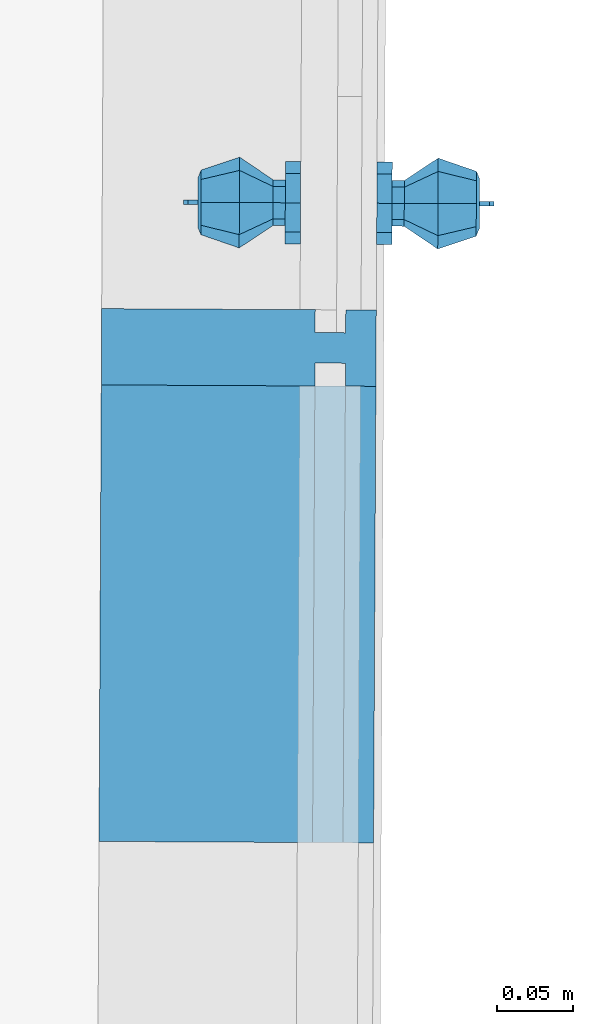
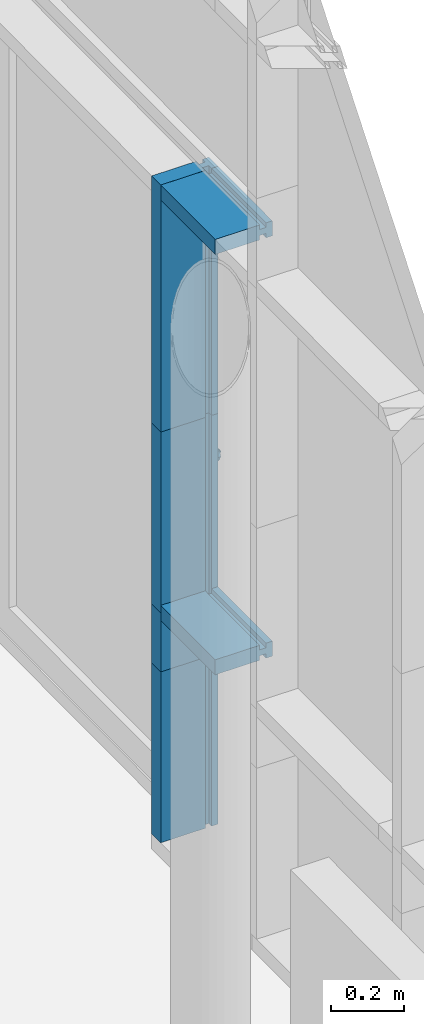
# One storey, part 181 of 196: 7 building element parts, 1 element without a shape of its own.
"""IFC2X3 building model written with IfcOpenShell, lengths in metres."""

from ifc_helpers import new_model, entity, si_unit, converted_unit, derived_unit, money_unit, direction, frame, origin_with_axes, place, context, subcontext, project, spatial, open_shell, faceted_brep, surface_model, material, type_object, element, aggregate, save


model = new_model("IFC2X3")

# Units and contexts
model_context = context("Model", 3, precision=1e-05, world=origin_with_axes(), true_north=direction((0.0, 1.0)))
body_context = subcontext(model_context, "Body", "Model", "MODEL_VIEW")
ifc_project = project(units=[si_unit("LENGTHUNIT", "METRE"), si_unit("AREAUNIT", "SQUARE_METRE"), si_unit("VOLUMEUNIT", "CUBIC_METRE"), converted_unit("PLANEANGLEUNIT", "DEGREE", entity("IfcPlaneAngleMeasure", 0.0174532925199), si_unit("PLANEANGLEUNIT", "RADIAN"), dimensions=[0, 0, 0, 0, 0, 0, 0]), money_unit("EUR"), converted_unit("TIMEUNIT", "Year", entity("IfcTimeMeasure", 31556926.0), si_unit("TIMEUNIT", "SECOND"), dimensions=[0, 0, 1, 0, 0, 0, 0]), si_unit("MASSUNIT", "GRAM", prefix="KILO"), si_unit("THERMODYNAMICTEMPERATUREUNIT", "DEGREE_CELSIUS"), si_unit("LUMINOUSINTENSITYUNIT", "LUMEN"), si_unit("ENERGYUNIT", "JOULE", prefix="MEGA"), derived_unit("THERMALCONDUCTANCEUNIT", [(si_unit("POWERUNIT", "WATT"), 1), (si_unit("LENGTHUNIT", "METRE"), -1), (si_unit("THERMODYNAMICTEMPERATUREUNIT", "KELVIN"), -1)]), derived_unit("SPECIFICHEATCAPACITYUNIT", [(si_unit("ENERGYUNIT", "JOULE"), 1), (si_unit("MASSUNIT", "GRAM", prefix="KILO"), -1), (si_unit("THERMODYNAMICTEMPERATUREUNIT", "KELVIN"), -1)]), derived_unit("MASSDENSITYUNIT", [(si_unit("MASSUNIT", "GRAM", prefix="KILO"), 1), (si_unit("VOLUMEUNIT", "CUBIC_METRE"), -1)])], contexts=[model_context])

# Site, building, storey
site_placement = place(None, origin_with_axes())
site = spatial("IfcSite", under=ifc_project, at=site_placement, Name="Gelände", CompositionType="ELEMENT")
building_placement = place(site_placement, origin_with_axes())
building = spatial("IfcBuilding", under=site, at=building_placement, Name="Gebäude", CompositionType="ELEMENT")
storey_placement = place(building_placement, frame((0.0, 0.0, -3.0), z_axis=(0.0, 0.0, 1.0), x_axis=(1.0, 0.0, 0.0)))
storey = spatial("IfcBuildingStorey", under=building, at=storey_placement, Name="KELLERGESCHOSS", CompositionType="ELEMENT", Elevation=-3.0)

# Proxy, building element parts
building_element_proxy_type = type_object("IfcBuildingElementProxyType", Name="Fassadentyp", PredefinedType="NOTDEFINED")
proxy_placement = place(storey_placement, frame((9.16160365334, 37.7476945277, 0.610000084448), z_axis=(0.0, 0.0, 1.0), x_axis=(1.0, 0.0, 0.0)))
proxy = element("IfcBuildingElementProxy", 1, at=proxy_placement, inside=storey, type_object=building_element_proxy_type, Name="Fassade-002")
ifc_material_1 = material(Name="54_Metall, Edelstahl")
building_element_part_1_placement = place(proxy_placement, origin_with_axes())
building_element_part_1 = element("IfcBuildingElementPart", 2, at=building_element_part_1_placement, material=ifc_material_1, Name="54_Metall, Edelstahl", context=body_context, shape_type="SurfaceModel", body=[
    surface_model("IfcShellBasedSurfaceModel", [(0.108033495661, 2.52882729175, 1.18616309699), (0.110077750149, 2.52531444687, 1.18266065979), (0.110136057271, 2.53681673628, 1.17789619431), (0.108074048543, 2.53682718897, 1.18284938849), (0.108016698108, 2.52551362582, 1.19416309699), (0.110053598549, 2.52055004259, 1.19416309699), (0.108009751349, 2.52181899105, 1.17915476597), (0.108085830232, 2.53682712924, 1.17293811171), (0.110194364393, 2.5483190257, 1.18266065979), (0.108114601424, 2.54482708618, 1.18616309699), (0.108131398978, 2.54814075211, 1.19416309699), (0.108114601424, 2.54482708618, 1.20216309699), (0.108074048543, 2.53682718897, 1.20547680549), (0.108033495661, 2.52882729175, 1.20216309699), (0.110077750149, 2.52531444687, 1.20566553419), (0.107978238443, 2.51560241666, 1.19416309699), (0.0828317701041, 2.51591191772, 1.17312013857), (0.0829384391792, 2.53695460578, 1.1644038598), (0.108161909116, 2.55183526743, 1.17915476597), (0.110218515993, 2.55308342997, 1.19416309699), (0.110194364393, 2.5483190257, 1.20566553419), (0.110136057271, 2.53681673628, 1.21042999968), (0.108009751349, 2.52181899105, 1.20917142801), (0.0827875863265, 2.50719575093, 1.19416309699), (0.0608076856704, 2.52646005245, 1.18355649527), (0.0608614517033, 2.5370665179, 1.17916309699), (0.0830451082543, 2.55799729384, 1.17312013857), (0.108193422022, 2.55805184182, 1.19416309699), (0.108161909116, 2.55183526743, 1.20917142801), (0.108085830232, 2.53682712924, 1.21538808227), (0.0828317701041, 2.51591191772, 1.21520605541), (0.0607854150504, 2.52206671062, 1.19416309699), (0.0607876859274, 2.52646015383, 1.18355649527), (0.0608414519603, 2.53706661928, 1.17916309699), (0.0609152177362, 2.54767298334, 1.18355649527), (0.0830892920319, 2.56671346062, 1.19416309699), (0.0830451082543, 2.55799729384, 1.21520605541), (0.0829384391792, 2.53695460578, 1.22392233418), (0.0608076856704, 2.52646005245, 1.20476969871), (0.0607654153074, 2.522066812, 1.19416309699), (0.0529077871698, 2.52650009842, 1.18355649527), (0.0529615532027, 2.53710656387, 1.17916309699), (0.0608952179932, 2.54767308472, 1.18355649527), (0.0609374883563, 2.55206632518, 1.19416309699), (0.0609152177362, 2.54767298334, 1.20476969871), (0.0608614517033, 2.5370665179, 1.20916309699), (0.0607876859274, 2.52646015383, 1.20476969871), (0.0528855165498, 2.52210675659, 1.19416309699), (0.0528077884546, 2.52650060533, 1.18355649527), (0.0528615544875, 2.53710707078, 1.17916309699), (0.0530153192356, 2.54771302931, 1.18355649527), (0.0609174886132, 2.55206642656, 1.19416309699), (0.0608952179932, 2.54767308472, 1.20476969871), (0.0608414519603, 2.53706661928, 1.20916309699), (0.0529077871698, 2.52650009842, 1.20476969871), (0.0527855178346, 2.5221072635, 1.19416309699), (0.0528074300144, 2.52642989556, 1.18348578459), (0.0528615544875, 2.53710707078, 1.17906309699), (0.0529153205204, 2.54771353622, 1.18355649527), (0.0530375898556, 2.55210637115, 1.19416309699), (0.0530153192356, 2.54771302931, 1.20476969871), (0.0529615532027, 2.53710656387, 1.20916309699), (0.0528077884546, 2.52650060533, 1.20476969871), (0.0527850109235, 2.52200726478, 1.19416309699), (0.0527651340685, 2.51808614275, 1.17514192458), (0.0528615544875, 2.53710707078, 1.16726309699), (0.0529156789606, 2.54778424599, 1.18348578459), (0.0529375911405, 2.55210687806, 1.19416309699), (0.0529153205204, 2.54771353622, 1.20476969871), (0.0528615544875, 2.53710707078, 1.20916309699), (0.0528074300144, 2.52642989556, 1.20484040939), (0.0527251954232, 2.51020741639, 1.19416309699), (0.0527647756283, 2.51801543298, 1.1750712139), (0.0528615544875, 2.53710707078, 1.16716309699), (0.0529579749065, 2.55612799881, 1.17514192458), (0.0529380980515, 2.55220687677, 1.19416309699), (0.0529156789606, 2.54778424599, 1.20484040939), (0.0528615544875, 2.53710707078, 1.20926309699), (0.0527651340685, 2.51808614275, 1.2131842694), (0.0527246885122, 2.51010741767, 1.19416309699), (0.0526647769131, 2.51801593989, 1.1750712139), (0.0527615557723, 2.53710757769, 1.16716309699), (0.0529583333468, 2.55619870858, 1.1750712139), (0.0529979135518, 2.56400672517, 1.19416309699), (0.0529579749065, 2.55612799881, 1.2131842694), (0.0528615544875, 2.53710707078, 1.22106309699), (0.0527647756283, 2.51801543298, 1.21325498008), (0.052624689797, 2.51010792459, 1.19416309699), (0.0427649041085, 2.51806612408, 1.1750712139), (0.0428616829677, 2.53715776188, 1.16716309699), (0.0528583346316, 2.55619921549, 1.1750712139), (0.0529984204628, 2.56410672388, 1.19416309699), (0.0529583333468, 2.55619870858, 1.21325498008), (0.0528615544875, 2.53710707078, 1.22116309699), (0.0526647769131, 2.51801593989, 1.21325498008), (0.0427248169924, 2.51015810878, 1.19416309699), (0.042958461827, 2.55624939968, 1.1750712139), (0.0528984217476, 2.56410723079, 1.19416309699), (0.0528583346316, 2.55619921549, 1.21325498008), (0.0527615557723, 2.53710757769, 1.22116309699), (0.0427649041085, 2.51806612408, 1.21325498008), (0.042998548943, 2.56415741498, 1.19416309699), (0.042958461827, 2.55624939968, 1.21325498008), (0.0428616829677, 2.53715776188, 1.22116309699)], [open_shell([[[0, 1, 2, 3]], [[4, 5, 1, 0]], [[1, 6, 7, 2]], [[3, 2, 8, 9]], [[3, 9, 10, 11, 12, 13, 4, 0]], [[13, 14, 5, 4]], [[5, 15, 6, 1]], [[6, 16, 17, 7]], [[2, 7, 18, 8]], [[9, 8, 19, 10]], [[10, 19, 20, 11]], [[11, 20, 21, 12]], [[12, 21, 14, 13]], [[14, 22, 15, 5]], [[15, 23, 16, 6]], [[16, 24, 25, 17]], [[7, 17, 26, 18]], [[8, 18, 27, 19]], [[19, 27, 28, 20]], [[20, 28, 29, 21]], [[21, 29, 22, 14]], [[22, 30, 23, 15]], [[23, 31, 24, 16]], [[24, 32, 33, 25]], [[17, 25, 34, 26]], [[18, 26, 35, 27]], [[27, 35, 36, 28]], [[28, 36, 37, 29]], [[29, 37, 30, 22]], [[30, 38, 31, 23]], [[31, 39, 32, 24]], [[32, 40, 41, 33]], [[25, 33, 42, 34]], [[26, 34, 43, 35]], [[35, 43, 44, 36]], [[36, 44, 45, 37]], [[37, 45, 38, 30]], [[38, 46, 39, 31]], [[39, 47, 40, 32]], [[40, 48, 49, 41]], [[33, 41, 50, 42]], [[34, 42, 51, 43]], [[43, 51, 52, 44]], [[44, 52, 53, 45]], [[45, 53, 46, 38]], [[46, 54, 47, 39]], [[47, 55, 48, 40]], [[48, 56, 57, 49]], [[41, 49, 58, 50]], [[42, 50, 59, 51]], [[51, 59, 60, 52]], [[52, 60, 61, 53]], [[53, 61, 54, 46]], [[54, 62, 55, 47]], [[55, 63, 56, 48]], [[56, 64, 65, 57]], [[49, 57, 66, 58]], [[50, 58, 67, 59]], [[59, 67, 68, 60]], [[60, 68, 69, 61]], [[61, 69, 62, 54]], [[62, 70, 63, 55]], [[63, 71, 64, 56]], [[64, 72, 73, 65]], [[57, 65, 74, 66]], [[58, 66, 75, 67]], [[67, 75, 76, 68]], [[68, 76, 77, 69]], [[69, 77, 70, 62]], [[70, 78, 71, 63]], [[71, 79, 72, 64]], [[72, 80, 81, 73]], [[65, 73, 82, 74]], [[66, 74, 83, 75]], [[75, 83, 84, 76]], [[76, 84, 85, 77]], [[77, 85, 78, 70]], [[78, 86, 79, 71]], [[79, 87, 80, 72]], [[80, 88, 89, 81]], [[73, 81, 90, 82]], [[74, 82, 91, 83]], [[83, 91, 92, 84]], [[84, 92, 93, 85]], [[85, 93, 86, 78]], [[86, 94, 87, 79]], [[87, 95, 88, 80]], [[81, 89, 96, 90]], [[82, 90, 97, 91]], [[91, 97, 98, 92]], [[92, 98, 99, 93]], [[93, 99, 94, 86]], [[94, 100, 95, 87]], [[90, 96, 101, 97]], [[97, 101, 102, 98]], [[98, 102, 103, 99]], [[99, 103, 100, 94]]])]),
    faceted_brep([(0.108111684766, 2.54425171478, 1.20158771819), (0.1081272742, 2.54732705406, 1.19416309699), (0.108111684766, 2.54425171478, 1.18673847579), (0.108074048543, 2.53682718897, 1.18366309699), (0.10803641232, 2.52940266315, 1.18673847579), (0.108020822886, 2.52632732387, 1.19416309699), (0.10803641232, 2.52940266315, 1.20158771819), (0.108074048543, 2.53682718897, 1.20466309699), (0.109611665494, 2.54424411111, 1.20158771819), (0.109627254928, 2.5473194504, 1.19416309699), (0.109611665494, 2.54424411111, 1.18673847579), (0.109574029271, 2.5368195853, 1.18366309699), (0.109536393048, 2.52939505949, 1.18673847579), (0.109520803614, 2.5263197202, 1.19416309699), (0.109536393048, 2.52939505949, 1.20158771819), (0.109574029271, 2.5368195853, 1.20466309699)], [[[0, 1, 2, 3, 4, 5, 6, 7]], [[0, 8, 9, 1]], [[1, 9, 10, 2]], [[2, 10, 11, 3]], [[3, 11, 12, 4]], [[4, 12, 13, 5]], [[5, 13, 14, 6]], [[6, 14, 15, 7]], [[7, 15, 8, 0]], [[8, 15, 14, 13, 12, 11, 10, 9]]]),
    faceted_brep([(0.109581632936, 2.53831956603, 1.20416309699), (0.109566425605, 2.53531960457, 1.20416309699), (0.116637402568, 2.53528376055, 1.2012341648), (0.116652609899, 2.53828372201, 1.2012341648), (0.109581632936, 2.53831956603, 1.18416309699), (0.109566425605, 2.53531960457, 1.18416309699), (0.116637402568, 2.53528376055, 1.18709202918), (0.119566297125, 2.53526891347, 1.19416309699), (0.119581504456, 2.53826887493, 1.19416309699), (0.116652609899, 2.53828372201, 1.18709202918)], [[[0, 1, 2, 3]], [[4, 5, 1, 0]], [[1, 5, 6, 7, 2]], [[3, 2, 7, 8]], [[0, 3, 8, 9, 4]], [[9, 6, 5, 4]], [[8, 7, 6, 9]]]),
    surface_model("IfcShellBasedSurfaceModel", [(-0.0723905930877, 2.52974189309, 1.18616309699), (-0.0723500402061, 2.5377417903, 1.18284938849), (-0.0744120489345, 2.53775224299, 1.17789619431), (-0.0744703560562, 2.52624995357, 1.18266065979), (-0.0724073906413, 2.52642822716, 1.19416309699), (-0.0723905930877, 2.52974189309, 1.20216309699), (-0.0723500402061, 2.5377417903, 1.20547680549), (-0.0723094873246, 2.54574168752, 1.20216309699), (-0.072292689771, 2.54905535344, 1.19416309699), (-0.0723094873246, 2.54574168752, 1.18616309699), (-0.0743537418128, 2.5492545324, 1.18266065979), (-0.072361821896, 2.53774185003, 1.17293811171), (-0.0724379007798, 2.52273371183, 1.17915476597), (-0.0744945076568, 2.5214855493, 1.19416309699), (-0.0744703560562, 2.52624995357, 1.20566553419), (-0.0744120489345, 2.53775224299, 1.21042999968), (-0.0743537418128, 2.5492545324, 1.20566553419), (-0.0743295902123, 2.55401893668, 1.19416309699), (-0.0722857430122, 2.55274998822, 1.17915476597), (-0.0472144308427, 2.53761437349, 1.1644038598), (-0.0473210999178, 2.51657168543, 1.17312013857), (-0.0724694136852, 2.51651713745, 1.19416309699), (-0.0724379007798, 2.52273371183, 1.20917142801), (-0.072361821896, 2.53774185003, 1.21538808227), (-0.0722857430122, 2.55274998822, 1.20917142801), (-0.0722542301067, 2.55896656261, 1.19416309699), (-0.0471077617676, 2.55865706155, 1.17312013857), (-0.0251374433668, 2.53750246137, 1.17916309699), (-0.0251912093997, 2.52689599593, 1.18355649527), (-0.0473652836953, 2.50785551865, 1.19416309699), (-0.0473210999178, 2.51657168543, 1.21520605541), (-0.0472144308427, 2.53761437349, 1.22392233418), (-0.0471077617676, 2.55865706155, 1.21520605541), (-0.04706357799, 2.56737322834, 1.19416309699), (-0.0250836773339, 2.54810892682, 1.18355649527), (-0.0251174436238, 2.53750235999, 1.17916309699), (-0.0251712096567, 2.52689589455, 1.18355649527), (-0.0252134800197, 2.52250265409, 1.19416309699), (-0.0251912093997, 2.52689599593, 1.20476969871), (-0.0251374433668, 2.53750246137, 1.20916309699), (-0.0250836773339, 2.54810892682, 1.20476969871), (-0.0250614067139, 2.55250226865, 1.19416309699), (-0.0250636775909, 2.54810882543, 1.18355649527), (-0.0172375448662, 2.5374624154, 1.17916309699), (-0.0172913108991, 2.52685594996, 1.18355649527), (-0.0251934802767, 2.52250255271, 1.19416309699), (-0.0251712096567, 2.52689589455, 1.20476969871), (-0.0251174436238, 2.53750235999, 1.20916309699), (-0.0250636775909, 2.54810882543, 1.20476969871), (-0.0250414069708, 2.55250216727, 1.19416309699), (-0.0171837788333, 2.54806888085, 1.18355649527), (-0.017137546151, 2.53746190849, 1.17916309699), (-0.0171913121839, 2.52685544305, 1.18355649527), (-0.0173135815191, 2.52246260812, 1.19416309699), (-0.0172913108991, 2.52685594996, 1.20476969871), (-0.0172375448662, 2.5374624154, 1.20916309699), (-0.0171837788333, 2.54806888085, 1.20476969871), (-0.0171615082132, 2.55246222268, 1.19416309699), (-0.0170837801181, 2.54806837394, 1.18355649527), (-0.017137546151, 2.53746190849, 1.17906309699), (-0.0171916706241, 2.52678473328, 1.18348578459), (-0.0172135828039, 2.52246210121, 1.19416309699), (-0.0171913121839, 2.52685544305, 1.20476969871), (-0.017137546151, 2.53746190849, 1.20916309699), (-0.0170837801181, 2.54806837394, 1.20476969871), (-0.017061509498, 2.55246171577, 1.19416309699), (-0.0170834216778, 2.54813908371, 1.18348578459), (-0.017137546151, 2.53746190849, 1.16726309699), (-0.01723396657, 2.51844098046, 1.17514192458), (-0.0172140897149, 2.5223621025, 1.19416309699), (-0.0171916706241, 2.52678473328, 1.20484040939), (-0.017137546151, 2.53746190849, 1.20926309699), (-0.0170834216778, 2.54813908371, 1.20484040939), (-0.017061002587, 2.55256171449, 1.19416309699), (-0.017041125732, 2.55648283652, 1.17514192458), (-0.017137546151, 2.53746190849, 1.16716309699), (-0.0172343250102, 2.51837027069, 1.1750712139), (-0.0172739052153, 2.5105622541, 1.19416309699), (-0.01723396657, 2.51844098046, 1.2131842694), (-0.017137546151, 2.53746190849, 1.22106309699), (-0.017041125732, 2.55648283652, 1.2131842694), (-0.0170011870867, 2.56436156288, 1.19416309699), (-0.0170407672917, 2.55655354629, 1.1750712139), (-0.0170375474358, 2.53746140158, 1.16716309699), (-0.017134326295, 2.51836976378, 1.1750712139), (-0.0172744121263, 2.51046225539, 1.19416309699), (-0.0172343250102, 2.51837027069, 1.21325498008), (-0.017137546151, 2.53746190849, 1.22116309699), (-0.0170407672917, 2.55655354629, 1.21325498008), (-0.0170006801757, 2.56446156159, 1.19416309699), (-0.0169407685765, 2.55655303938, 1.1750712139), (-0.0071376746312, 2.53741121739, 1.16716309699), (-0.00723445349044, 2.51831957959, 1.1750712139), (-0.0171744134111, 2.51046174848, 1.19416309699), (-0.017134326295, 2.51836976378, 1.21325498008), (-0.0170375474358, 2.53746140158, 1.22116309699), (-0.0169407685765, 2.55655303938, 1.21325498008), (-0.0169006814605, 2.56446105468, 1.19416309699), (-0.00704089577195, 2.55650285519, 1.1750712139), (-0.00727454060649, 2.51041156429, 1.19416309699), (-0.00723445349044, 2.51831957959, 1.21325498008), (-0.0071376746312, 2.53741121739, 1.22116309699), (-0.00704089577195, 2.55650285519, 1.21325498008), (-0.0070008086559, 2.56441087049, 1.19416309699)], [open_shell([[[0, 1, 2, 3]], [[1, 0, 4, 5, 6, 7, 8, 9]], [[1, 9, 10, 2]], [[3, 2, 11, 12]], [[4, 0, 3, 13]], [[5, 4, 13, 14]], [[6, 5, 14, 15]], [[7, 6, 15, 16]], [[8, 7, 16, 17]], [[9, 8, 17, 10]], [[2, 10, 18, 11]], [[12, 11, 19, 20]], [[13, 3, 12, 21]], [[14, 13, 21, 22]], [[15, 14, 22, 23]], [[16, 15, 23, 24]], [[17, 16, 24, 25]], [[10, 17, 25, 18]], [[11, 18, 26, 19]], [[20, 19, 27, 28]], [[21, 12, 20, 29]], [[22, 21, 29, 30]], [[23, 22, 30, 31]], [[24, 23, 31, 32]], [[25, 24, 32, 33]], [[18, 25, 33, 26]], [[19, 26, 34, 27]], [[28, 27, 35, 36]], [[29, 20, 28, 37]], [[30, 29, 37, 38]], [[31, 30, 38, 39]], [[32, 31, 39, 40]], [[33, 32, 40, 41]], [[26, 33, 41, 34]], [[27, 34, 42, 35]], [[36, 35, 43, 44]], [[37, 28, 36, 45]], [[38, 37, 45, 46]], [[39, 38, 46, 47]], [[40, 39, 47, 48]], [[41, 40, 48, 49]], [[34, 41, 49, 42]], [[35, 42, 50, 43]], [[44, 43, 51, 52]], [[45, 36, 44, 53]], [[46, 45, 53, 54]], [[47, 46, 54, 55]], [[48, 47, 55, 56]], [[49, 48, 56, 57]], [[42, 49, 57, 50]], [[43, 50, 58, 51]], [[52, 51, 59, 60]], [[53, 44, 52, 61]], [[54, 53, 61, 62]], [[55, 54, 62, 63]], [[56, 55, 63, 64]], [[57, 56, 64, 65]], [[50, 57, 65, 58]], [[51, 58, 66, 59]], [[60, 59, 67, 68]], [[61, 52, 60, 69]], [[62, 61, 69, 70]], [[63, 62, 70, 71]], [[64, 63, 71, 72]], [[65, 64, 72, 73]], [[58, 65, 73, 66]], [[59, 66, 74, 67]], [[68, 67, 75, 76]], [[69, 60, 68, 77]], [[70, 69, 77, 78]], [[71, 70, 78, 79]], [[72, 71, 79, 80]], [[73, 72, 80, 81]], [[66, 73, 81, 74]], [[67, 74, 82, 75]], [[76, 75, 83, 84]], [[77, 68, 76, 85]], [[78, 77, 85, 86]], [[79, 78, 86, 87]], [[80, 79, 87, 88]], [[81, 80, 88, 89]], [[74, 81, 89, 82]], [[75, 82, 90, 83]], [[84, 83, 91, 92]], [[85, 76, 84, 93]], [[86, 85, 93, 94]], [[87, 86, 94, 95]], [[88, 87, 95, 96]], [[89, 88, 96, 97]], [[82, 89, 97, 90]], [[83, 90, 98, 91]], [[93, 84, 92, 99]], [[94, 93, 99, 100]], [[95, 94, 100, 101]], [[96, 95, 101, 102]], [[97, 96, 102, 103]], [[90, 97, 103, 98]]])]),
    faceted_brep([(-0.0723124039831, 2.54516631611, 1.20158771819), (-0.0723500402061, 2.5377417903, 1.20466309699), (-0.0723876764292, 2.53031726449, 1.20158771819), (-0.0724032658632, 2.52724192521, 1.19416309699), (-0.0723876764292, 2.53031726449, 1.18673847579), (-0.0723500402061, 2.5377417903, 1.18366309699), (-0.0723124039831, 2.54516631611, 1.18673847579), (-0.0722968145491, 2.5482416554, 1.19416309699), (-0.0738123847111, 2.54517391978, 1.20158771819), (-0.0738500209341, 2.53774939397, 1.20466309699), (-0.0738876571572, 2.53032486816, 1.20158771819), (-0.0739032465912, 2.52724952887, 1.19416309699), (-0.0738876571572, 2.53032486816, 1.18673847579), (-0.0738500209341, 2.53774939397, 1.18366309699), (-0.0738123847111, 2.54517391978, 1.18673847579), (-0.0737967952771, 2.54824925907, 1.19416309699)], [[[0, 1, 2, 3, 4, 5, 6, 7]], [[1, 0, 8, 9]], [[2, 1, 9, 10]], [[3, 2, 10, 11]], [[4, 3, 11, 12]], [[5, 4, 12, 13]], [[6, 5, 13, 14]], [[7, 6, 14, 15]], [[0, 7, 15, 8]], [[8, 15, 14, 13, 12, 11, 10, 9]]]),
    faceted_brep([(-0.0738424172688, 2.5392493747, 1.20416309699), (-0.0809133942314, 2.53928521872, 1.2012341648), (-0.080928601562, 2.53628525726, 1.2012341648), (-0.0738576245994, 2.53624941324, 1.20416309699), (-0.0738424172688, 2.5392493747, 1.18416309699), (-0.0809133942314, 2.53928521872, 1.18709202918), (-0.0838422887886, 2.5393000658, 1.19416309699), (-0.0838574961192, 2.53630010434, 1.19416309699), (-0.080928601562, 2.53628525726, 1.18709202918), (-0.0738576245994, 2.53624941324, 1.18416309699)], [[[0, 1, 2, 3]], [[0, 4, 5, 6, 1]], [[1, 6, 7, 2]], [[3, 2, 7, 8, 9]], [[4, 0, 3, 9]], [[5, 4, 9, 8]], [[6, 5, 8, 7]]]),
])
ifc_material_2 = material(Name="53_Metall, Aluminium")
building_element_part_2_placement = place(proxy_placement, origin_with_axes())
building_element_part_2 = element("IfcBuildingElementPart", 3, at=building_element_part_2_placement, material=ifc_material_2, Name="53_Metall, Aluminium", context=body_context, shape_type="Brep", body=[
    faceted_brep([(0.00225390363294, 2.41736206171, 2.20916310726), (0.00225390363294, 2.41736206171, 2.19416310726), (-0.137744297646, 2.41807173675, 2.19416310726), (-0.137744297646, 2.41807173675, 2.24416310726), (0.00225390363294, 2.41736206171, 2.24416310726), (0.00225390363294, 2.41736206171, 2.22916310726), (0.0222536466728, 2.41726067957, 2.22916310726), (0.0222536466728, 2.41726067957, 2.24416310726), (0.0422533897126, 2.41715929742, 2.24416310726), (0.0422533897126, 2.41715929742, 2.19416310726), (0.0222536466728, 2.41726067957, 2.19416310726), (0.0222536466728, 2.41726067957, 2.20916310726), (0.000736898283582, 2.11810128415, 2.20916310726), (0.000736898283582, 2.11810128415, 2.19416310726), (-0.139261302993, 2.11881095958, 2.19416310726), (-0.139261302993, 2.11881095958, 2.24416310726), (0.000736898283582, 2.11810128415, 2.24416310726), (0.000736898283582, 2.11810128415, 2.22916310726), (0.0207366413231, 2.11799990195, 2.22916310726), (0.0207366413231, 2.11799990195, 2.24416310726), (0.0407363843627, 2.11789851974, 2.24416310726), (0.0407363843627, 2.11789851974, 2.19416310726), (0.0207366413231, 2.11799990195, 2.19416310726), (0.0207366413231, 2.11799990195, 2.20916310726)], [[[0, 1, 2, 3, 4, 5, 6, 7, 8, 9, 10, 11]], [[1, 0, 12, 13]], [[1, 13, 14, 2]], [[3, 2, 14, 15]], [[4, 3, 15, 16]], [[4, 16, 17, 5]], [[5, 17, 18, 6]], [[7, 6, 18, 19]], [[19, 20, 8, 7]], [[9, 8, 20, 21]], [[22, 10, 9, 21]], [[11, 10, 22, 23]], [[0, 11, 23, 12]], [[23, 22, 21, 20, 19, 18, 17, 16, 15, 14, 13, 12]]]),
])
building_element_part_3_placement = place(proxy_placement, origin_with_axes())
building_element_part_3 = element("IfcBuildingElementPart", 4, at=building_element_part_3_placement, material=ifc_material_2, Name="53_Metall, Aluminium", context=body_context, shape_type="Brep", body=[
    faceted_brep([(0.00243132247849, 2.4523616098, 2.24416310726), (0.00250735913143, 2.46736141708, 2.24416310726), (-0.137490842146, 2.46807109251, 2.24416310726), (-0.137744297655, 2.41807173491, 2.24416310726), (0.00225390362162, 2.41736205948, 2.24416310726), (0.00232994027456, 2.43236186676, 2.24416310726), (0.0223296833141, 2.43226048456, 2.24416310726), (0.0222536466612, 2.41726067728, 2.24416310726), (0.0422533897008, 2.41715929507, 2.24416310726), (0.0425068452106, 2.46715865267, 2.24416310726), (0.022507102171, 2.46726003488, 2.24416310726), (0.0224310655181, 2.4522602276, 2.24416310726), (0.00243132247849, 2.4523616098, 1.41999991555), (0.00250735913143, 2.46736141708, 1.41999991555), (-0.137490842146, 2.46807109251, 1.41999991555), (-0.137744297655, 2.41807173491, 1.41999991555), (0.00225390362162, 2.41736205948, 1.41999991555), (0.00232994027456, 2.43236186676, 1.41999991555), (0.0223296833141, 2.43226048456, 1.41999991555), (0.0222536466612, 2.41726067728, 1.41999991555), (0.0422533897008, 2.41715929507, 1.41999991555), (0.0425068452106, 2.46715865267, 1.41999991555), (0.022507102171, 2.46726003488, 1.41999991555), (0.0224310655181, 2.4522602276, 1.41999991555)], [[[0, 1, 2, 3, 4, 5, 6, 7, 8, 9, 10, 11]], [[1, 0, 12, 13]], [[1, 13, 14, 2]], [[3, 2, 14, 15]], [[4, 3, 15, 16]], [[4, 16, 17, 5]], [[5, 17, 18, 6]], [[7, 6, 18, 19]], [[19, 20, 8, 7]], [[9, 8, 20, 21]], [[22, 10, 9, 21]], [[11, 10, 22, 23]], [[0, 11, 23, 12]], [[23, 22, 21, 20, 19, 18, 17, 16, 15, 14, 13, 12]]]),
])
building_element_part_4_placement = place(proxy_placement, origin_with_axes())
building_element_part_4 = element("IfcBuildingElementPart", 5, at=building_element_part_4_placement, material=ifc_material_2, Name="53_Metall, Aluminium", context=body_context, shape_type="Brep", body=[
    faceted_brep([(0.00243132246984, 2.4523616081, 1.41999990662), (0.00250735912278, 2.46736141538, 1.41999990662), (-0.137490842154, 2.4680710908, 1.41999990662), (-0.137744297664, 2.4180717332, 1.41999990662), (0.00225390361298, 2.41736205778, 1.41999990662), (0.00232994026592, 2.43236186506, 1.41999990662), (0.0223296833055, 2.43226048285, 1.41999990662), (0.0222536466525, 2.41726067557, 1.41999990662), (0.0422533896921, 2.41715929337, 1.41999990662), (0.0425068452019, 2.46715865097, 1.41999990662), (0.0225071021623, 2.46726003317, 1.41999990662), (0.0224310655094, 2.45226022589, 1.41999990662), (0.00243132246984, 2.4523616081, 0.817169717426), (0.00250735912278, 2.46736141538, 0.817169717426), (-0.137490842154, 2.4680710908, 0.817169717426), (-0.137744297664, 2.4180717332, 0.817169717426), (0.00225390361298, 2.41736205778, 0.817169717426), (0.00232994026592, 2.43236186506, 0.817169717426), (0.0223296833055, 2.43226048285, 0.817169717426), (0.0222536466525, 2.41726067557, 0.817169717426), (0.0422533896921, 2.41715929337, 0.817169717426), (0.0425068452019, 2.46715865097, 0.817169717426), (0.0225071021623, 2.46726003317, 0.817169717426), (0.0224310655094, 2.45226022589, 0.817169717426)], [[[0, 1, 2, 3, 4, 5, 6, 7, 8, 9, 10, 11]], [[1, 0, 12, 13]], [[1, 13, 14, 2]], [[3, 2, 14, 15]], [[4, 3, 15, 16]], [[4, 16, 17, 5]], [[5, 17, 18, 6]], [[7, 6, 18, 19]], [[19, 20, 8, 7]], [[9, 8, 20, 21]], [[22, 10, 9, 21]], [[11, 10, 22, 23]], [[0, 11, 23, 12]], [[23, 22, 21, 20, 19, 18, 17, 16, 15, 14, 13, 12]]]),
])
building_element_part_5_placement = place(proxy_placement, origin_with_axes())
building_element_part_5 = element("IfcBuildingElementPart", 6, at=building_element_part_5_placement, material=ifc_material_2, Name="53_Metall, Aluminium", context=body_context, shape_type="Brep", body=[
    faceted_brep([(0.00225390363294, 2.41736206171, 0.807169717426), (0.00225390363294, 2.41736206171, 0.792169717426), (-0.137744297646, 2.41807173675, 0.792169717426), (-0.137744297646, 2.41807173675, 0.842169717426), (0.00225390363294, 2.41736206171, 0.842169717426), (0.00225390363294, 2.41736206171, 0.827169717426), (0.0222536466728, 2.41726067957, 0.827169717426), (0.0222536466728, 2.41726067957, 0.842169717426), (0.0422533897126, 2.41715929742, 0.842169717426), (0.0422533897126, 2.41715929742, 0.792169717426), (0.0222536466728, 2.41726067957, 0.792169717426), (0.0222536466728, 2.41726067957, 0.807169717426), (0.000736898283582, 2.11810128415, 0.807169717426), (0.000736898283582, 2.11810128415, 0.792169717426), (-0.139261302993, 2.11881095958, 0.792169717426), (-0.139261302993, 2.11881095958, 0.842169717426), (0.000736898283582, 2.11810128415, 0.842169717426), (0.000736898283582, 2.11810128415, 0.827169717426), (0.0207366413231, 2.11799990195, 0.827169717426), (0.0207366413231, 2.11799990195, 0.842169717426), (0.0407363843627, 2.11789851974, 0.842169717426), (0.0407363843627, 2.11789851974, 0.792169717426), (0.0207366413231, 2.11799990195, 0.792169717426), (0.0207366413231, 2.11799990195, 0.807169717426)], [[[0, 1, 2, 3, 4, 5, 6, 7, 8, 9, 10, 11]], [[1, 0, 12, 13]], [[1, 13, 14, 2]], [[3, 2, 14, 15]], [[4, 3, 15, 16]], [[4, 16, 17, 5]], [[5, 17, 18, 6]], [[7, 6, 18, 19]], [[19, 20, 8, 7]], [[9, 8, 20, 21]], [[22, 10, 9, 21]], [[11, 10, 22, 23]], [[0, 11, 23, 12]], [[23, 22, 21, 20, 19, 18, 17, 16, 15, 14, 13, 12]]]),
])
building_element_part_6_placement = place(proxy_placement, origin_with_axes())
building_element_part_6 = element("IfcBuildingElementPart", 7, at=building_element_part_6_placement, material=ifc_material_2, Name="53_Metall, Aluminium", context=body_context, shape_type="Brep", body=[
    faceted_brep([(0.00243132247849, 2.4523616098, 0.817169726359), (0.00250735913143, 2.46736141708, 0.817169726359), (-0.137490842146, 2.46807109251, 0.817169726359), (-0.137744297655, 2.41807173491, 0.817169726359), (0.00225390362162, 2.41736205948, 0.817169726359), (0.00232994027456, 2.43236186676, 0.817169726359), (0.0223296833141, 2.43226048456, 0.817169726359), (0.0222536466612, 2.41726067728, 0.817169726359), (0.0422533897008, 2.41715929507, 0.817169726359), (0.0425068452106, 2.46715865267, 0.817169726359), (0.022507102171, 2.46726003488, 0.817169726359), (0.0224310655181, 2.4522602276, 0.817169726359), (0.00243132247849, 2.4523616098, 0.619999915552), (0.00250735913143, 2.46736141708, 0.619999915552), (-0.137490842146, 2.46807109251, 0.619999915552), (-0.137744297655, 2.41807173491, 0.619999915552), (0.00225390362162, 2.41736205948, 0.619999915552), (0.00232994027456, 2.43236186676, 0.619999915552), (0.0223296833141, 2.43226048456, 0.619999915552), (0.0222536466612, 2.41726067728, 0.619999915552), (0.0422533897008, 2.41715929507, 0.619999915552), (0.0425068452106, 2.46715865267, 0.619999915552), (0.022507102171, 2.46726003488, 0.619999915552), (0.0224310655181, 2.4522602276, 0.619999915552)], [[[0, 1, 2, 3, 4, 5, 6, 7, 8, 9, 10, 11]], [[1, 0, 12, 13]], [[1, 13, 14, 2]], [[3, 2, 14, 15]], [[4, 3, 15, 16]], [[4, 16, 17, 5]], [[5, 17, 18, 6]], [[7, 6, 18, 19]], [[19, 20, 8, 7]], [[9, 8, 20, 21]], [[22, 10, 9, 21]], [[11, 10, 22, 23]], [[0, 11, 23, 12]], [[23, 22, 21, 20, 19, 18, 17, 16, 15, 14, 13, 12]]]),
])
building_element_part_7_placement = place(proxy_placement, origin_with_axes())
building_element_part_7 = element("IfcBuildingElementPart", 8, at=building_element_part_7_placement, material=ifc_material_2, Name="53_Metall, Aluminium", context=body_context, shape_type="Brep", body=[
    faceted_brep([(0.00243132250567, 2.45236161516, 0.619999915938), (0.00250735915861, 2.46736142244, 0.619999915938), (-0.137490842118, 2.46807109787, 0.619999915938), (-0.137744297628, 2.41807174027, 0.619999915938), (0.00225390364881, 2.41736206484, 0.619999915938), (0.00232994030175, 2.43236187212, 0.619999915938), (0.0223296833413, 2.43226048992, 0.619999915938), (0.0222536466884, 2.41726068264, 0.619999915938), (0.0422533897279, 2.41715930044, 0.619999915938), (0.0425068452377, 2.46715865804, 0.619999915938), (0.0225071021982, 2.46726004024, 0.619999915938), (0.0224310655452, 2.45226023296, 0.619999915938), (0.00243132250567, 2.45236161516, 0.0499998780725), (0.00250735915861, 2.46736142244, 0.0499998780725), (-0.137490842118, 2.46807109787, 0.0499998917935), (-0.137744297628, 2.41807174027, 0.0499998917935), (0.00225390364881, 2.41736206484, 0.0499998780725), (0.00232994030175, 2.43236187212, 0.0499998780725), (0.0223296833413, 2.43226048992, 0.0499998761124), (0.0222536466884, 2.41726068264, 0.0499998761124), (0.0422533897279, 2.41715930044, 0.0499998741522), (0.0425068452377, 2.46715865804, 0.0499998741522), (0.0225071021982, 2.46726004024, 0.0499998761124), (0.0224310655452, 2.45226023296, 0.0499998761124)], [[[0, 1, 2, 3, 4, 5, 6, 7, 8, 9, 10, 11]], [[1, 0, 12, 13]], [[1, 13, 14, 2]], [[2, 14, 15, 3]], [[4, 3, 15, 16]], [[4, 16, 17, 5]], [[5, 17, 18, 6]], [[7, 6, 18, 19]], [[19, 20, 8, 7]], [[8, 20, 21, 9]], [[22, 10, 9, 21]], [[11, 10, 22, 23]], [[0, 11, 23, 12]], [[23, 22, 21, 20, 19, 18, 17, 16, 15, 14, 13, 12]]]),
])
aggregate(proxy, [building_element_part_1, building_element_part_2, building_element_part_3, building_element_part_4, building_element_part_5, building_element_part_6, building_element_part_7])

save(model, "model.ifc")
